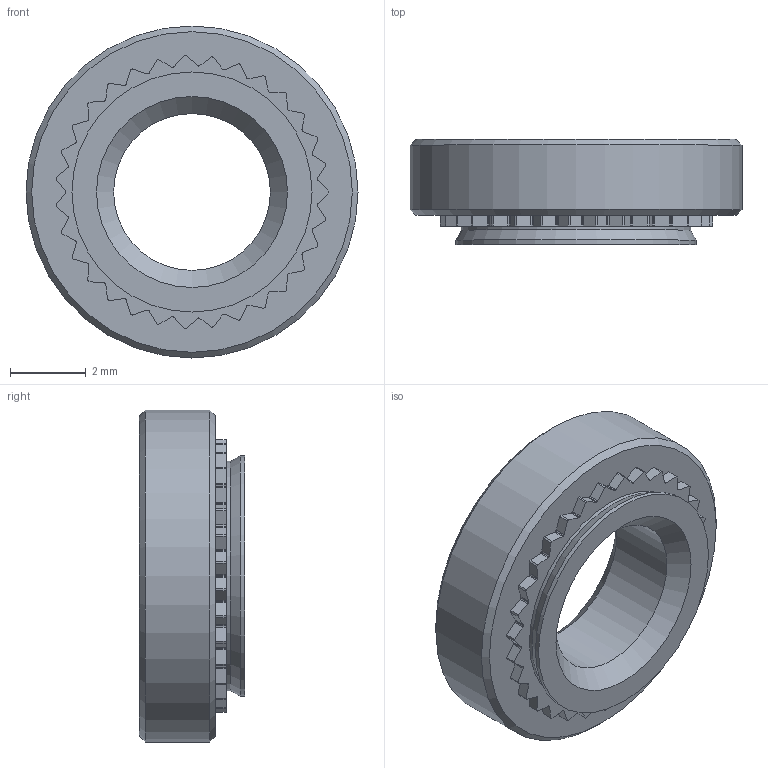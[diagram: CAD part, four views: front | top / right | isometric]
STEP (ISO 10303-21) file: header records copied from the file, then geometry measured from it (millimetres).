
FILE_DESCRIPTION(/* description */ (''),/* implementation_level */ '2;1');
FILE_NAME(/* name */ 'C:\Users\keval.kumar\Desktop\Fastit\Clinch nut\M5\Clinch Nut_M5_0.stp',/* time_stamp */ '2024-03-14T09:38:09+05:00',/* author */ ('keval.kumar'),/* organization */ (''),/* preprocessor_version */ 'ST-DEVELOPER v18.1',/* originating_system */ 'Autodesk Inventor 2022',/* authorisation */ '');
FILE_SCHEMA (('AUTOMOTIVE_DESIGN { 1 0 10303 214 3 1 1 }'));
Length unit declared in the file: millimetre
Products named in the file (1): M5-Clinch Nut
Bounding box: 8.75 x 2.77 x 8.75 mm (x, y, z)
Volume: 105 mm3; surface area: 194.1 mm2
Topology: 1 solids, 1 shells, 199 faces, 582 edges, 387 vertices
Faces by surface type: cylinder 128, plane 66, cone 5
Full cylindrical faces by diameter (mm): 4.134 x1, 6.05 x1, 6.33 x1, 8.75 x1
Entity records: 6762 total; most frequent: DIRECTION 1245, CARTESIAN_POINT 1169, ORIENTED_EDGE 1164, EDGE_CURVE 582, AXIS2_PLACEMENT_3D 463, VERTEX_POINT 387, LINE 319, VECTOR 319
